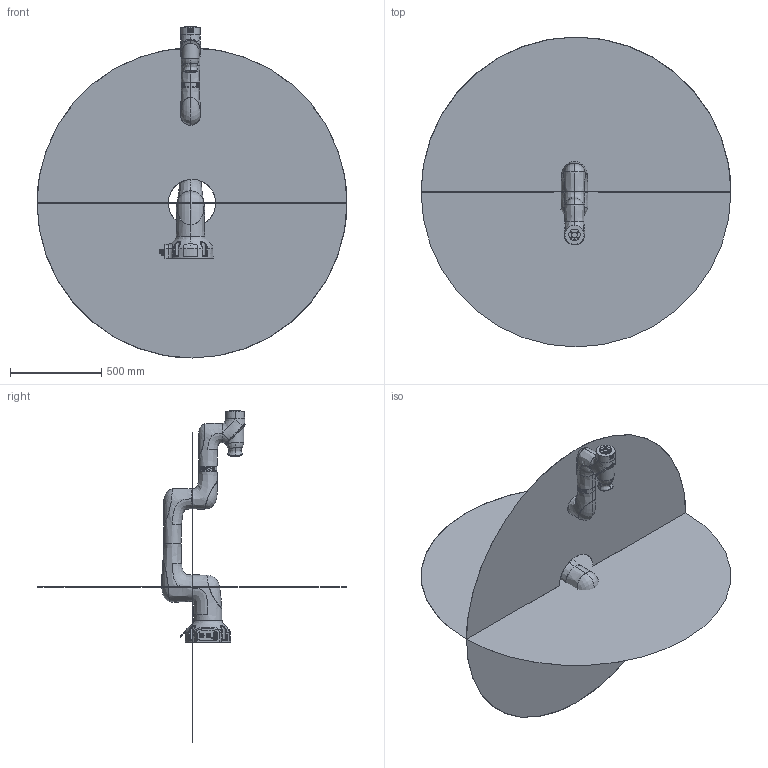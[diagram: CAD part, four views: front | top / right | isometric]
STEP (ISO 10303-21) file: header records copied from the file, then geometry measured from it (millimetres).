
FILE_DESCRIPTION (( 'STEP AP214' ), '1' );
FILE_NAME ('XMC7-R850 ｼｯﾄ｣ﾐﾍ ﾓﾐxpanel STP ﾓﾐLogo(20221123｣ｩ.STEP', '2022-11-25T02:48:24', ( '' ), ( '' ), 'SwSTEP 2.0', 'SolidWorks 2012', '' );
FILE_SCHEMA (( 'AUTOMOTIVE_DESIGN' ));
Length unit declared in the file: millimetre
Products named in the file (9): XMC7-R850-base; XMC7-R850-xiaobihou; XMC7-R850-dabi; XMC7-R850-yao; XMC7-R850-shouwan; XMC7-R850 馱釬諾潔; XMC7-R850-shuchufalan; XMC7-R850 ¼ò»¯Ä£ÐÍ ÓÐxpanel STP ÓÐLogo(20221123£©; XMC7-R850-xiaobiqian
Assembly tree (8 placements, depth 2):
  XMC7-R850 ¼ò»¯Ä£ÐÍ ÓÐxpanel STP ÓÐLogo(20221123£©
    XMC7-R850-base
    XMC7-R850-yao
    XMC7-R850-dabi
    XMC7-R850-xiaobiqian
    XMC7-R850-xiaobihou
    XMC7-R850-shouwan
    XMC7-R850-shuchufalan
    XMC7-R850 馱釬諾潔
Bounding box: 1700 x 1700 x 1820.76 mm (x, y, z)
Volume: 21236756.5 mm3; surface area: 10186236 mm2
Topology: 26 solids, 42 shells, 4492 faces, 12441 edges, 8216 vertices
Faces by surface type: plane 2224, cylinder 1187, bspline 837, cone 234, torus 10
Entity records: 229794 total; most frequent: CARTESIAN_POINT 128164, ORIENTED_EDGE 24790, DIRECTION 14935, EDGE_CURVE 12397, VERTEX_POINT 8216, B_SPLINE_CURVE_WITH_KNOTS 5811, LINE 5209, VECTOR 5209
